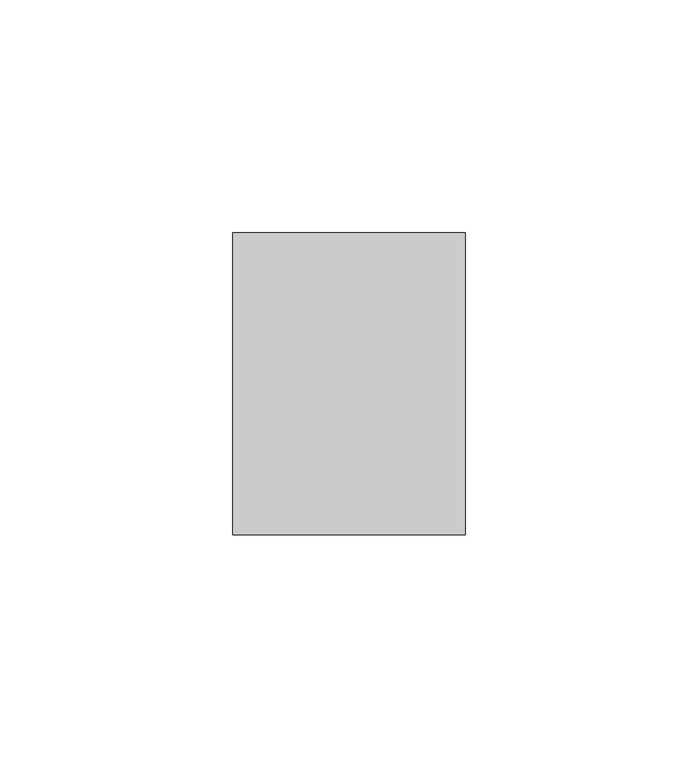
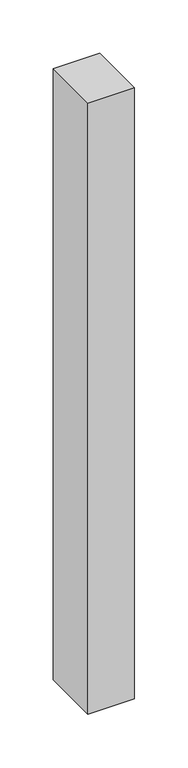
"""IFC4 building model written with IfcOpenShell, lengths in millimetres: member geometry, Прямоугольный импост : 50 мм x 65 мм."""

from ifc_helpers import new_model, si_unit, frame, origin, place, context, project, spatial, polyline, outline, extrude, source, transform, mapped, element, save


def member_1564d5d8(model_context):
    return source(origin(), model_context, "Body", "SweptSolid", [
        extrude(outline(polyline([(25.0, 32.5), (25.0, -32.5), (-25.0, -32.5), (-25.0, 32.5), (25.0, 32.5)])), frame((0.0, 0.0, -700.0), z_axis=(0.0, 0.0, 1.0), x_axis=(1.0, 0.0, 0.0)), (0.0, 0.0, 1.0), 700.0),
    ])


if __name__ == "__main__":
    model = new_model("IFC4")
    model_context = context("Model", 3, world=origin())
    ifc_project = project(units=[si_unit("LENGTHUNIT", "METRE", prefix="MILLI")], contexts=[model_context])
    site = spatial("IfcSite", under=ifc_project)
    building = spatial("IfcBuilding", under=site)
    placement = place(None, origin())
    member_shape = member_1564d5d8(model_context)
    element("IfcMember", 1, ObjectType="Прямоугольный импост : 50 мм x 65 мм", at=placement, inside=building, context=model_context, shape_type="MappedRepresentation", body=[
        mapped(member_shape, transform((0.0, 0.0, 0.0), x_axis=(1.0, 0.0, 0.0), y_axis=(0.0, 1.0, 0.0), z_axis=(0.0, 0.0, 1.0))),
    ])
    save(model, "model.ifc")
